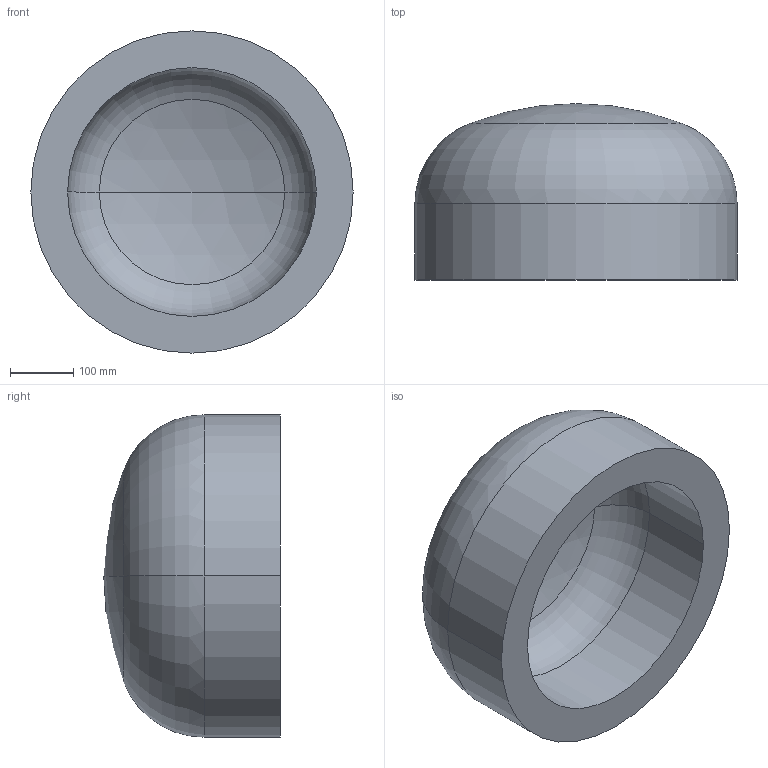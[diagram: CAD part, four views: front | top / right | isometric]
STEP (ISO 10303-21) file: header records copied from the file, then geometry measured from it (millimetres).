
FILE_DESCRIPTION (( 'STEP AP203' ), '1' );
FILE_NAME ('DIN 28013 Korbbogenform_-_Boden DIN 28013 - 508 x 120 - I - s=58.step', '2016-07-01T07:56:04', ( '' ), ( '' ), 'SwSTEP 2.0', 'SolidWorks 2013', '' );
FILE_SCHEMA (( 'CONFIG_CONTROL_DESIGN' ));
Length unit declared in the file: millimetre
Products named in the file (1): DIN 28013 Korbbogenform_-_Boden DIN 28013 - 508 x 120 - I - s=58
Bounding box: 508 x 277.96 x 508 mm (x, y, z)
Volume: 23985889.3 mm3; surface area: 916140.7 mm2
Topology: 1 solids, 1 shells, 13 faces, 24 edges, 14 vertices
Faces by surface type: torus 4, cylinder 4, sphere 4, plane 1
Entity records: 407 total; most frequent: DIRECTION 72, CARTESIAN_POINT 52, ORIENTED_EDGE 48, AXIS2_PLACEMENT_3D 34, EDGE_CURVE 24, CIRCLE 20, EDGE_LOOP 14, VERTEX_POINT 14
